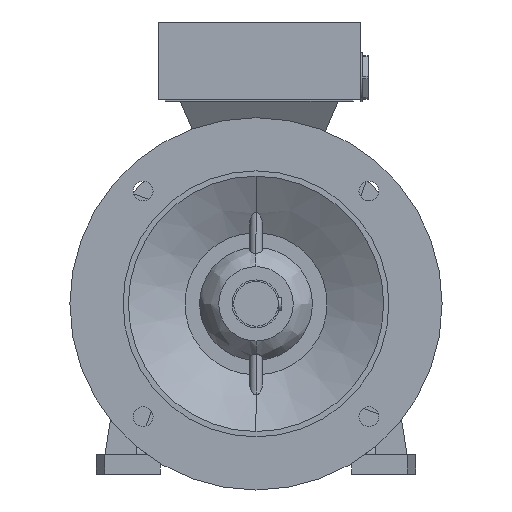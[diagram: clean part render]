
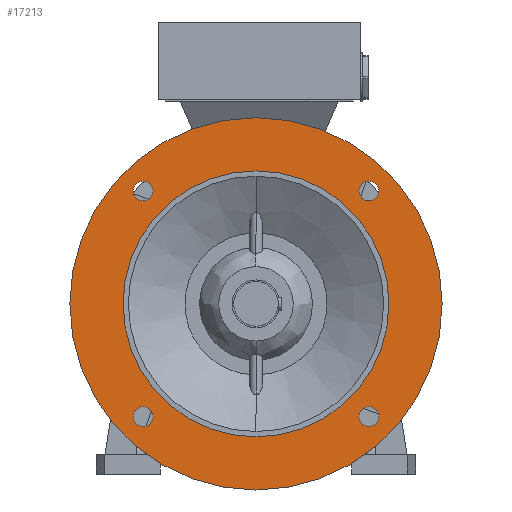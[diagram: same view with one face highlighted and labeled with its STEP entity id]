
A CAD part, left-side view. The second image highlights one B-rep face of the part: STEP entity #17213.
In plain terms, the highlighted planar face has unit normal (-1, 0, 0).
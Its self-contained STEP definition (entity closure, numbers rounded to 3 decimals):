
#2900 = DIRECTION ( 'NONE',  ( -1., 0., 0. ) ) ;
#2902 = PLANE ( 'NONE',  #15938 ) ;
#2904 = CARTESIAN_POINT ( 'NONE',  ( -80., 150., 0. ) ) ;
#2905 = DIRECTION ( 'NONE',  ( 0., 0., 1. ) ) ;
#3607 = AXIS2_PLACEMENT_3D ( 'NONE', #11748, #11749, #11750 ) ;
#3614 = AXIS2_PLACEMENT_3D ( 'NONE', #27821, #27823, #27825 ) ;
#3615 = AXIS2_PLACEMENT_3D ( 'NONE', #27829, #27831, #27833 ) ;
#3616 = AXIS2_PLACEMENT_3D ( 'NONE', #27835, #27837, #27839 ) ;
#3617 = AXIS2_PLACEMENT_3D ( 'NONE', #27842, #27843, #27845 ) ;
#3618 = AXIS2_PLACEMENT_3D ( 'NONE', #27848, #27850, #27852 ) ;
#3819 = AXIS2_PLACEMENT_3D ( 'NONE', #27474, #27476, #27478 ) ;
#3821 = AXIS2_PLACEMENT_3D ( 'NONE', #27639, #27641, #27643 ) ;
#3840 = AXIS2_PLACEMENT_3D ( 'NONE', #28298, #28300, #28303 ) ;
#3844 = AXIS2_PLACEMENT_3D ( 'NONE', #28395, #28398, #28401 ) ;
#3855 = AXIS2_PLACEMENT_3D ( 'NONE', #28783, #28786, #28789 ) ;
#3856 = AXIS2_PLACEMENT_3D ( 'NONE', #28801, #28803, #28804 ) ;
#5440 = VERTEX_POINT ( 'NONE', #17600 ) ;
#5441 = VERTEX_POINT ( 'NONE', #17601 ) ;
#5442 = VERTEX_POINT ( 'NONE', #17602 ) ;
#5445 = VERTEX_POINT ( 'NONE', #17605 ) ;
#5449 = VERTEX_POINT ( 'NONE', #17609 ) ;
#5450 = VERTEX_POINT ( 'NONE', #17610 ) ;
#5453 = VERTEX_POINT ( 'NONE', #17613 ) ;
#5455 = VERTEX_POINT ( 'NONE', #17615 ) ;
#5457 = VERTEX_POINT ( 'NONE', #17617 ) ;
#5458 = VERTEX_POINT ( 'NONE', #17618 ) ;
#5461 = VERTEX_POINT ( 'NONE', #17621 ) ;
#5467 = VERTEX_POINT ( 'NONE', #17627 ) ;
#11748 = CARTESIAN_POINT ( 'NONE',  ( -80., 0., 0. ) ) ;
#11749 = DIRECTION ( 'NONE',  ( 1., 0., 0. ) ) ;
#11750 = DIRECTION ( 'NONE',  ( 0., 0., 1. ) ) ;
#13358 = EDGE_LOOP ( 'NONE', ( #26517, #26514 ) ) ;
#13359 = EDGE_LOOP ( 'NONE', ( #26543, #26541 ) ) ;
#13360 = EDGE_LOOP ( 'NONE', ( #26548, #26545 ) ) ;
#13361 = EDGE_LOOP ( 'NONE', ( #26535, #26532 ) ) ;
#13363 = EDGE_LOOP ( 'NONE', ( #26530, #26527 ) ) ;
#13369 = EDGE_LOOP ( 'NONE', ( #26524, #26521 ) ) ;
#15938 = AXIS2_PLACEMENT_3D ( 'NONE', #2904, #2900, #2905 ) ;
#16360 = FACE_BOUND ( 'NONE', #13361, .T. ) ;
#16365 = FACE_BOUND ( 'NONE', #13363, .T. ) ;
#16370 = FACE_BOUND ( 'NONE', #13360, .T. ) ;
#16372 = FACE_BOUND ( 'NONE', #13369, .T. ) ;
#16374 = FACE_OUTER_BOUND ( 'NONE', #13359, .T. ) ;
#16375 = FACE_BOUND ( 'NONE', #13358, .T. ) ;
#17213 = ADVANCED_FACE ( 'NONE', ( #16370, #16374, #16360, #16365, #16372, #16375 ), #2902, .T. ) ;
#17600 = CARTESIAN_POINT ( 'NONE',  ( -80., -106.066, 115.316 ) ) ;
#17601 = CARTESIAN_POINT ( 'NONE',  ( -80., 0., -175. ) ) ;
#17602 = CARTESIAN_POINT ( 'NONE',  ( -80., -106.066, 96.816 ) ) ;
#17605 = CARTESIAN_POINT ( 'NONE',  ( -80., 0., 175. ) ) ;
#17609 = CARTESIAN_POINT ( 'NONE',  ( -80., 106.066, 115.316 ) ) ;
#17610 = CARTESIAN_POINT ( 'NONE',  ( -80., 106.066, 96.816 ) ) ;
#17613 = CARTESIAN_POINT ( 'NONE',  ( -80., 106.066, -96.816 ) ) ;
#17615 = CARTESIAN_POINT ( 'NONE',  ( -80., 106.066, -115.316 ) ) ;
#17617 = CARTESIAN_POINT ( 'NONE',  ( -80., -106.066, -96.816 ) ) ;
#17618 = CARTESIAN_POINT ( 'NONE',  ( -80., -106.066, -115.316 ) ) ;
#17621 = CARTESIAN_POINT ( 'NONE',  ( -80., 0., -125. ) ) ;
#17627 = CARTESIAN_POINT ( 'NONE',  ( -80., 0., 125. ) ) ;
#17742 = EDGE_CURVE ( 'NONE', #5440, #5442, #22096, .T. ) ;
#17758 = EDGE_CURVE ( 'NONE', #5449, #5450, #22122, .T. ) ;
#17817 = EDGE_CURVE ( 'NONE', #5457, #5458, #22191, .T. ) ;
#17826 = EDGE_CURVE ( 'NONE', #5441, #5445, #22202, .T. ) ;
#17858 = EDGE_CURVE ( 'NONE', #5461, #5467, #22236, .T. ) ;
#17860 = EDGE_CURVE ( 'NONE', #5453, #5455, #22238, .T. ) ;
#20167 = CIRCLE ( 'NONE', #3607, 125. ) ;
#20302 = CIRCLE ( 'NONE', #3614, 175. ) ;
#20303 = CIRCLE ( 'NONE', #3615, 9.25 ) ;
#20304 = CIRCLE ( 'NONE', #3616, 9.25 ) ;
#20305 = CIRCLE ( 'NONE', #3617, 9.25 ) ;
#20306 = CIRCLE ( 'NONE', #3618, 9.25 ) ;
#22096 = CIRCLE ( 'NONE', #3819, 9.25 ) ;
#22122 = CIRCLE ( 'NONE', #3821, 9.25 ) ;
#22191 = CIRCLE ( 'NONE', #3840, 9.25 ) ;
#22202 = CIRCLE ( 'NONE', #3844, 175. ) ;
#22236 = CIRCLE ( 'NONE', #3855, 125. ) ;
#22238 = CIRCLE ( 'NONE', #3856, 9.25 ) ;
#26514 = ORIENTED_EDGE ( 'NONE', *, *, #17817, .T. ) ;
#26517 = ORIENTED_EDGE ( 'NONE', *, *, #32500, .T. ) ;
#26521 = ORIENTED_EDGE ( 'NONE', *, *, #17860, .T. ) ;
#26524 = ORIENTED_EDGE ( 'NONE', *, *, #32498, .T. ) ;
#26527 = ORIENTED_EDGE ( 'NONE', *, *, #17758, .T. ) ;
#26530 = ORIENTED_EDGE ( 'NONE', *, *, #32496, .T. ) ;
#26532 = ORIENTED_EDGE ( 'NONE', *, *, #17742, .T. ) ;
#26535 = ORIENTED_EDGE ( 'NONE', *, *, #32495, .T. ) ;
#26541 = ORIENTED_EDGE ( 'NONE', *, *, #17826, .F. ) ;
#26543 = ORIENTED_EDGE ( 'NONE', *, *, #32493, .F. ) ;
#26545 = ORIENTED_EDGE ( 'NONE', *, *, #17858, .T. ) ;
#26548 = ORIENTED_EDGE ( 'NONE', *, *, #32327, .T. ) ;
#27474 = CARTESIAN_POINT ( 'NONE',  ( -80., -106.066, 106.066 ) ) ;
#27476 = DIRECTION ( 'NONE',  ( 1., 0., 0. ) ) ;
#27478 = DIRECTION ( 'NONE',  ( 0., 0., -1. ) ) ;
#27639 = CARTESIAN_POINT ( 'NONE',  ( -80., 106.066, 106.066 ) ) ;
#27641 = DIRECTION ( 'NONE',  ( 1., 0., 0. ) ) ;
#27643 = DIRECTION ( 'NONE',  ( 0., 0., -1. ) ) ;
#27821 = CARTESIAN_POINT ( 'NONE',  ( -80., 0., 0. ) ) ;
#27823 = DIRECTION ( 'NONE',  ( 1., 0., 0. ) ) ;
#27825 = DIRECTION ( 'NONE',  ( 0., 0., 1. ) ) ;
#27829 = CARTESIAN_POINT ( 'NONE',  ( -80., -106.066, 106.066 ) ) ;
#27831 = DIRECTION ( 'NONE',  ( 1., 0., 0. ) ) ;
#27833 = DIRECTION ( 'NONE',  ( 0., 0., -1. ) ) ;
#27835 = CARTESIAN_POINT ( 'NONE',  ( -80., 106.066, 106.066 ) ) ;
#27837 = DIRECTION ( 'NONE',  ( 1., 0., 0. ) ) ;
#27839 = DIRECTION ( 'NONE',  ( 0., 0., -1. ) ) ;
#27842 = CARTESIAN_POINT ( 'NONE',  ( -80., 106.066, -106.066 ) ) ;
#27843 = DIRECTION ( 'NONE',  ( 1., 0., 0. ) ) ;
#27845 = DIRECTION ( 'NONE',  ( 0., 0., -1. ) ) ;
#27848 = CARTESIAN_POINT ( 'NONE',  ( -80., -106.066, -106.066 ) ) ;
#27850 = DIRECTION ( 'NONE',  ( 1., 0., 0. ) ) ;
#27852 = DIRECTION ( 'NONE',  ( 0., 0., -1. ) ) ;
#28298 = CARTESIAN_POINT ( 'NONE',  ( -80., -106.066, -106.066 ) ) ;
#28300 = DIRECTION ( 'NONE',  ( 1., 0., 0. ) ) ;
#28303 = DIRECTION ( 'NONE',  ( 0., 0., -1. ) ) ;
#28395 = CARTESIAN_POINT ( 'NONE',  ( -80., 0., 0. ) ) ;
#28398 = DIRECTION ( 'NONE',  ( 1., 0., 0. ) ) ;
#28401 = DIRECTION ( 'NONE',  ( 0., 0., 1. ) ) ;
#28783 = CARTESIAN_POINT ( 'NONE',  ( -80., 0., 0. ) ) ;
#28786 = DIRECTION ( 'NONE',  ( 1., 0., 0. ) ) ;
#28789 = DIRECTION ( 'NONE',  ( 0., 0., 1. ) ) ;
#28801 = CARTESIAN_POINT ( 'NONE',  ( -80., 106.066, -106.066 ) ) ;
#28803 = DIRECTION ( 'NONE',  ( 1., 0., 0. ) ) ;
#28804 = DIRECTION ( 'NONE',  ( 0., 0., -1. ) ) ;
#32327 = EDGE_CURVE ( 'NONE', #5467, #5461, #20167, .T. ) ;
#32493 = EDGE_CURVE ( 'NONE', #5445, #5441, #20302, .T. ) ;
#32495 = EDGE_CURVE ( 'NONE', #5442, #5440, #20303, .T. ) ;
#32496 = EDGE_CURVE ( 'NONE', #5450, #5449, #20304, .T. ) ;
#32498 = EDGE_CURVE ( 'NONE', #5455, #5453, #20305, .T. ) ;
#32500 = EDGE_CURVE ( 'NONE', #5458, #5457, #20306, .T. ) ;
